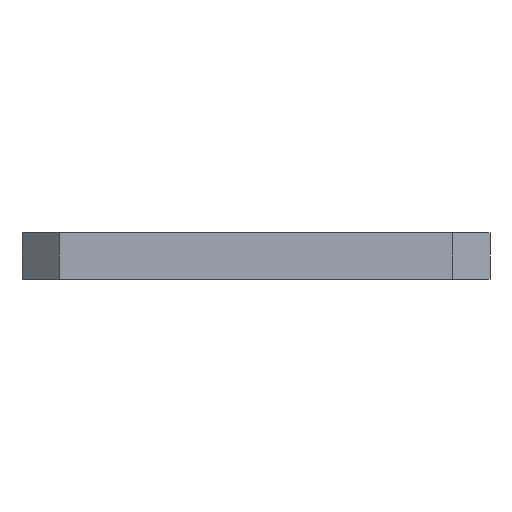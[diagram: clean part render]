
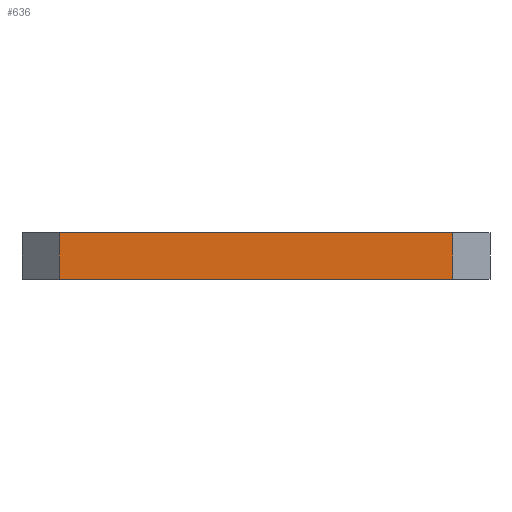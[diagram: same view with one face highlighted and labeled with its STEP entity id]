
A CAD part, front view. The second image highlights one B-rep face of the part: STEP entity #636.
In plain terms, the highlighted planar face has unit normal (0, -1, 0).
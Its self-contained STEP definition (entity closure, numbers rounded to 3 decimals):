
#45=PLANE('',#707);
#76=FACE_OUTER_BOUND('',#107,.T.);
#107=EDGE_LOOP('',(#524,#525,#526,#527));
#180=LINE('',#1043,#241);
#181=LINE('',#1046,#242);
#182=LINE('',#1048,#243);
#183=LINE('',#1049,#244);
#241=VECTOR('',#866,10.);
#242=VECTOR('',#869,10.);
#243=VECTOR('',#870,10.);
#244=VECTOR('',#871,10.);
#329=VERTEX_POINT('',#1039);
#330=VERTEX_POINT('',#1041);
#331=VERTEX_POINT('',#1045);
#332=VERTEX_POINT('',#1047);
#412=EDGE_CURVE('',#329,#330,#180,.T.);
#413=EDGE_CURVE('',#329,#331,#181,.T.);
#414=EDGE_CURVE('',#332,#330,#182,.T.);
#415=EDGE_CURVE('',#331,#332,#183,.T.);
#524=ORIENTED_EDGE('',*,*,#413,.F.);
#525=ORIENTED_EDGE('',*,*,#412,.T.);
#526=ORIENTED_EDGE('',*,*,#414,.F.);
#527=ORIENTED_EDGE('',*,*,#415,.F.);
#636=ADVANCED_FACE('',(#76),#45,.T.);
#707=AXIS2_PLACEMENT_3D('',#1044,#867,#868);
#866=DIRECTION('',(0.,0.,1.));
#867=DIRECTION('center_axis',(0.,-1.,0.));
#868=DIRECTION('ref_axis',(1.,0.,0.));
#869=DIRECTION('',(-1.,0.,0.));
#870=DIRECTION('',(1.,0.,0.));
#871=DIRECTION('',(0.,0.,1.));
#1039=CARTESIAN_POINT('',(79.712,39.484,0.));
#1041=CARTESIAN_POINT('',(79.712,39.484,5.));
#1043=CARTESIAN_POINT('',(79.712,39.484,0.));
#1044=CARTESIAN_POINT('Origin',(37.712,39.484,0.));
#1045=CARTESIAN_POINT('',(37.712,39.484,0.));
#1046=CARTESIAN_POINT('',(79.712,39.484,0.));
#1047=CARTESIAN_POINT('',(37.712,39.484,5.));
#1048=CARTESIAN_POINT('',(79.712,39.484,5.));
#1049=CARTESIAN_POINT('',(37.712,39.484,0.));
